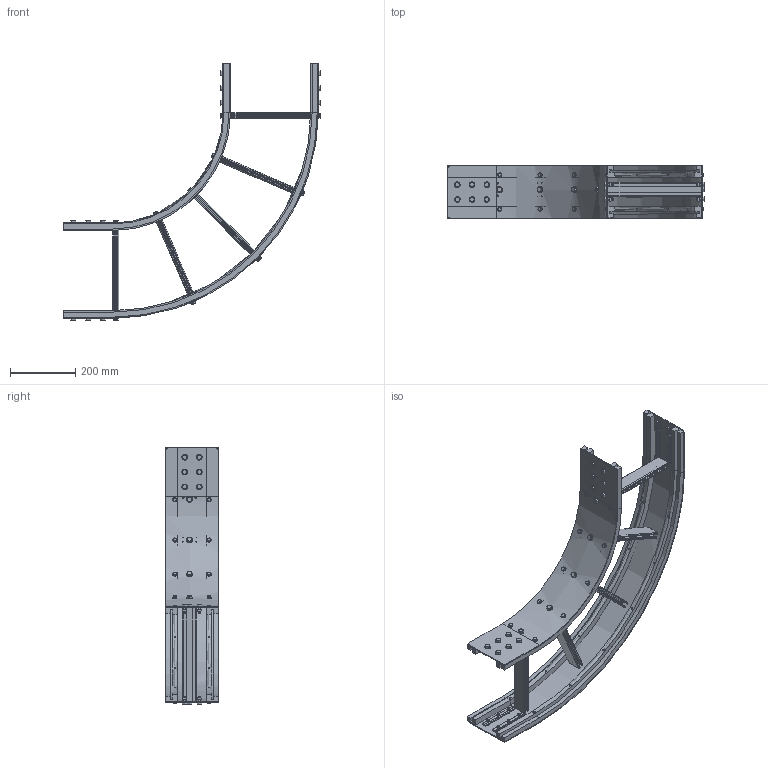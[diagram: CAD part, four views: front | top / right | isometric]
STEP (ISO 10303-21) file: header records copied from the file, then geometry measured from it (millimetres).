
FILE_DESCRIPTION (( 'STEP AP203' ), '1' );
FILE_NAME ('3000.250.490.STEP', '2018-02-28T10:52:43', ( 'Localadmin' ), ( 'Microsoft' ), 'SwSTEP 2.0', 'SolidWorks 2016', '' );
FILE_SCHEMA (( 'CONFIG_CONTROL_DESIGN' ));
Length unit declared in the file: millimetre
Products named in the file (11): RONDELLE UNI 6592 INOX_6.4x12.5 UNI 6592 INOX; 3000.250.007; VITI TE UNI 5739 INOX_M6x20 UNI 5739 INOX; 3000.250.006; 3000.250.490; 3000.250.004_curva; 3000.250.005; 084.101.004.XXXX_285<A macchina>; RONDELLE UNI 6592 INOX_8.4x18 UNI 6592 INOX; VITI TE UNI 5739 INOX_M8x20 UNI 5739 INOX; 084.302.060
Assembly tree (127 placements, depth 2):
  3000.250.490
    3000.250.007  x2
    3000.250.006  x2
    3000.250.004_curva
    3000.250.005
    084.101.004.XXXX_285<A macchina>  x5
    RONDELLE UNI 6592 INOX_8.4x18 UNI 6592 INOX  x34
    VITI TE UNI 5739 INOX_M8x20 UNI 5739 INOX  x34
    084.302.060  x8
    RONDELLE UNI 6592 INOX_6.4x12.5 UNI 6592 INOX  x20
    VITI TE UNI 5739 INOX_M6x20 UNI 5739 INOX  x20
Bounding box: 785.46 x 160 x 785.46 mm (x, y, z)
Volume: 4024259.9 mm3; surface area: 1690021.9 mm2
Topology: 127 solids, 127 shells, 1932 faces, 4392 edges, 2768 vertices
Faces by surface type: plane 894, cylinder 606, cone 432
Entity records: 19933 total; most frequent: CARTESIAN_POINT 7280, DIRECTION 1732, ORIENTED_EDGE 1656, EDGE_CURVE 828, AXIS2_PLACEMENT_3D 652, VERTEX_POINT 536, EDGE_LOOP 460, VECTOR 428
